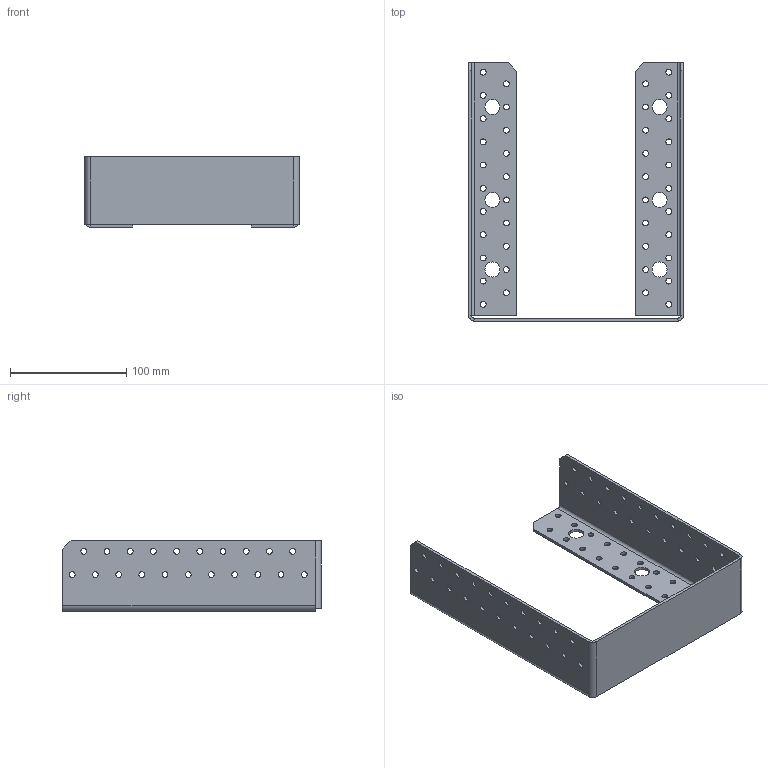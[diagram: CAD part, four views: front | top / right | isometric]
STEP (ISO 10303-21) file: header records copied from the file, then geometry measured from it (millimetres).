
FILE_DESCRIPTION (( 'STEP AP203' ), '1' );
FILE_NAME ('40522IKO.STEP', '2021-04-16T09:45:43', ( '' ), ( '' ), 'SwSTEP 2.0', 'SolidWorks 2013', '' );
FILE_SCHEMA (( 'CONFIG_CONTROL_DESIGN' ));
Length unit declared in the file: millimetre
Products named in the file (1): 40522IKO
Bounding box: 185 x 222.5 x 60.5 mm (x, y, z)
Volume: 127179.8 mm3; surface area: 109414.1 mm2
Topology: 1 solids, 1 shells, 224 faces, 636 edges, 414 vertices
Faces by surface type: cylinder 188, plane 36
Entity records: 7895 total; most frequent: DIRECTION 1464, CARTESIAN_POINT 1275, ORIENTED_EDGE 1272, EDGE_CURVE 636, AXIS2_PLACEMENT_3D 603, VERTEX_POINT 414, EDGE_LOOP 404, CIRCLE 378
